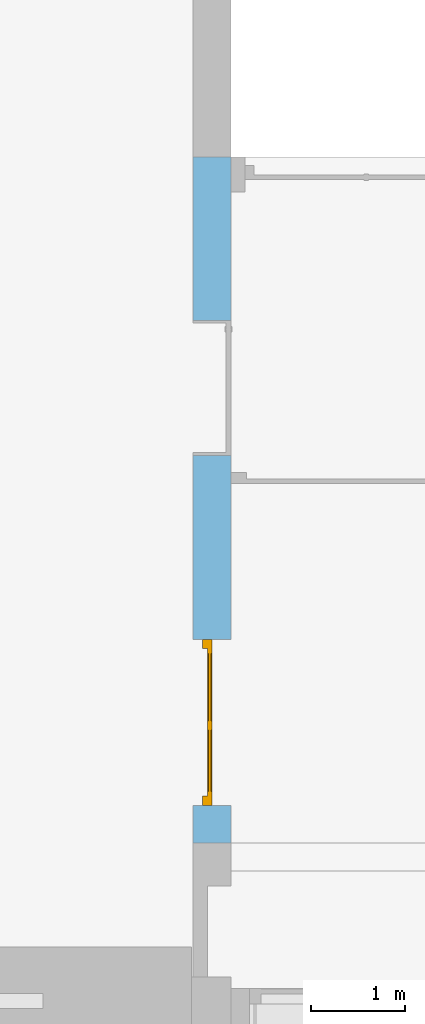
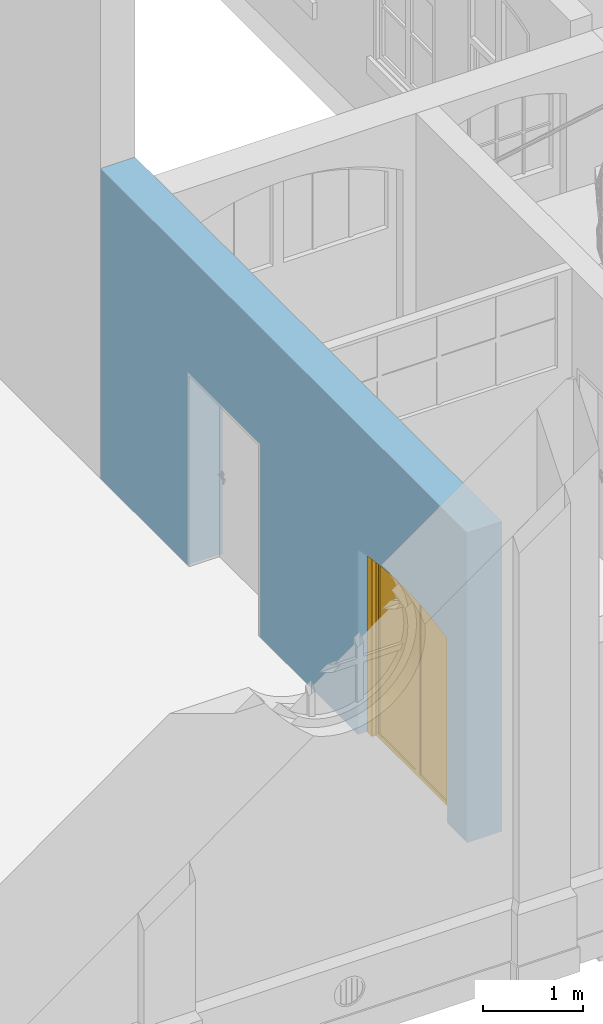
"""IFC4 building model written with IfcOpenShell, lengths in metres."""

from ifc_helpers import new_model, entity, si_unit, converted_unit, derived_unit, frame, frame_2d, origin, origin_with_axes, place, context, subcontext, project, spatial, polyline, rectangle, outline, extrude, closed_shell, open_shell, surface_model, source, transform, mapped, material, layer, layer_set, layer_usage, element, fill, save


model = new_model("IFC4")

# Units and contexts
model_context = context("Model", 3, precision=1e-05, world=origin())
body_context = subcontext(model_context, "Body", "Model", "MODEL_VIEW")
ifc_project = project(units=[si_unit("LENGTHUNIT", "METRE"), si_unit("AREAUNIT", "SQUARE_METRE"), si_unit("VOLUMEUNIT", "CUBIC_METRE"), si_unit("MASSUNIT", "GRAM", prefix="KILO"), converted_unit("PLANEANGLEUNIT", "DEGREE", entity("IfcPlaneAngleMeasure", 0.0174532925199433), si_unit("PLANEANGLEUNIT", "RADIAN"), dimensions=[0, 0, 0, 0, 0, 0, 0]), derived_unit("THERMALTRANSMITTANCEUNIT", [(si_unit("POWERUNIT", "WATT"), 1), (si_unit("THERMODYNAMICTEMPERATUREUNIT", "KELVIN"), -1), (si_unit("LENGTHUNIT", "METRE"), -2)]), derived_unit("VOLUMETRICFLOWRATEUNIT", [(si_unit("LENGTHUNIT", "METRE"), 3), (converted_unit("TIMEUNIT", "hour", entity("IfcTimeMeasure", 3600.0), si_unit("TIMEUNIT", "SECOND"), dimensions=[0, 0, 1, 0, 0, 0, 0]), -1), (si_unit("LENGTHUNIT", "METRE"), -1)])], contexts=[model_context])

# Building, storeys
building_placement = place(None, origin())
building = spatial("IfcBuilding", under=ifc_project, at=building_placement, Name="Bestandsgebäude A - Sporthalle / Wohnhaus (TB 100-499)   ANPASSEN !!!", CompositionType="ELEMENT")
storey_1_placement = place(building_placement, origin())
storey_1 = spatial("IfcBuildingStorey", under=building, at=storey_1_placement, Name="Geb. A Erdgeschoss (TB 200-249)", CompositionType="ELEMENT", Elevation=0.0)
storey_2_placement = place(storey_1_placement, origin())
storey_2 = spatial("IfcBuildingStorey", under=storey_1, at=storey_2_placement, Name="Architektur (TB 200-209)", CompositionType="PARTIAL")

# Wall, openings, door
ifc_material = material(Name="concrete")
ifc_layer = layer(ifc_material, 0.4)
ifc_layer_set = layer_set([ifc_layer])
ifc_layer_usage = layer_usage(ifc_layer_set, "AXIS2", "POSITIVE", 0.0)
wall_placement = place(storey_2_placement, frame((-8.5, 1.94, 0.0), z_axis=(0.0, 0.0, 1.0), x_axis=(0.0, 1.0, 0.0)))
wall = element("IfcWall", 1, at=wall_placement, inside=storey_2, material=ifc_layer_usage, Name="reinforced - bearing", PredefinedType="USERDEFINED", context=body_context, shape_type="SweptSolid", body=[
    extrude(rectangle(XDim=7.31, YDim=0.4, at=frame_2d((3.655, 0.2), x_axis=(1.0, 0.0))), origin_with_axes(), (0.0, 0.0, 1.0), 3.77),
])
opening_1_placement = place(wall_placement, frame((5.56999999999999, 0.4, 0.0), z_axis=(0.0, -1.0, 0.0), x_axis=(0.0, 0.0, 1.0)))
element("IfcOpeningElement", 2, at=opening_1_placement, cuts=wall, Name="Door opening", PredefinedType="OPENING", context=body_context, shape_type="SweptSolid", body=[
    extrude(outline(polyline([(2.35, 1.44), (2.35, 0.0), (0.0, 0.0), (0.0, 1.44), (2.35, 1.44)])), origin_with_axes(), (0.0, 0.0, 1.0), 0.4),
])
opening_2_placement = place(wall_placement, frame((2.17, 0.4, 0.0), z_axis=(0.0, -1.0, 0.0), x_axis=(0.0, 0.0, 1.0)))
opening_2 = element("IfcOpeningElement", 3, at=opening_2_placement, cuts=wall, Name="Door opening", PredefinedType="OPENING", context=body_context, shape_type="SweptSolid", body=[
    extrude(outline(polyline([(2.25, 1.77), (2.2628414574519, 1.71190189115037), (2.27480989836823, 1.65361767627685), (2.28590262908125, 1.5951604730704), (2.29611715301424, 1.5365434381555), (2.30545117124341, 1.47777976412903), (2.31390258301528, 1.41888267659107), (2.32146948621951, 1.35986543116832), (2.32815017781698, 1.30074131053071), (2.33394315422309, 1.24152362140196), (2.33884711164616, 1.1822256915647), (2.34286094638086, 1.12286086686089), (2.34598375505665, 1.06344250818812), (2.34821483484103, 1.00398398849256), (2.3495536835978, 0.944498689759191), (2.35, 0.884999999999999), (2.3495536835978, 0.825501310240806), (2.34821483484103, 0.766016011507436), (2.34598375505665, 0.706557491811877), (2.34286094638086, 0.647139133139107), (2.33884711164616, 0.587774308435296), (2.33394315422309, 0.528476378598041), (2.32815017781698, 0.469258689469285), (2.32146948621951, 0.410134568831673), (2.31390258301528, 0.351117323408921), (2.30545117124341, 0.292220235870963), (2.29611715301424, 0.233456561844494), (2.28590262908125, 0.174839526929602), (2.27480989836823, 0.116382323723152), (2.2628414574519, 0.0580981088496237), (2.25, 0.0), (0.0, 0.0), (0.0, 1.77), (2.25, 1.77)])), origin_with_axes(), (0.0, 0.0, 1.0), 0.4),
])
shared_shape = source(origin_with_axes(), body_context, "Body", "SurfaceModel", [
    surface_model("IfcShellBasedSurfaceModel", [(0.0580981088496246, 0.100000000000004, 2.2628414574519), (0.0, 0.100000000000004, 2.25), (0.0, 0.100000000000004, 0.0), (0.100000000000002, 0.100000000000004, 0.0), (0.100000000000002, 0.100000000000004, 2.16935926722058), (0.135762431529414, 0.100000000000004, 2.17670294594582), (0.192745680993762, 0.100000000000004, 2.1875159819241), (0.249884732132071, 0.100000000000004, 2.19747295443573), (0.307166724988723, 0.100000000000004, 2.20657162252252), (0.364578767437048, 0.100000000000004, 2.21480993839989), (0.422107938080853, 0.100000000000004, 2.22218604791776), (0.479741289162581, 0.100000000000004, 2.22869829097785), (0.537465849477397, 0.100000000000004, 2.23434520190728), (0.595268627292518, 0.100000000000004, 2.23912550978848), (0.653136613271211, 0.100000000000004, 2.24303813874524), (0.711056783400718, 0.100000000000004, 2.24608220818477), (0.769016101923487, 0.100000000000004, 2.248257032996), (0.827001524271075, 0.100000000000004, 2.24956212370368), (0.885, 0.100000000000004, 2.2499971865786), (0.942998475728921, 0.100000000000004, 2.24956212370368), (1.00098389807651, 0.100000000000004, 2.248257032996), (1.05894321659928, 0.100000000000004, 2.24608220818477), (1.11686338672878, 0.100000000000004, 2.24303813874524), (1.17473137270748, 0.100000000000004, 2.23912550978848), (1.2325341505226, 0.100000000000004, 2.23434520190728), (1.29025871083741, 0.100000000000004, 2.22869829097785), (1.34789206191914, 0.100000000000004, 2.22218604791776), (1.40542123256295, 0.100000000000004, 2.21480993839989), (1.46283327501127, 0.100000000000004, 2.20657162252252), (1.52011526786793, 0.100000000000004, 2.19747295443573), (1.57725431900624, 0.100000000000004, 2.1875159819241), (1.63423756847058, 0.100000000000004, 2.17670294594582), (1.67, 0.100000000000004, 2.16935926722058), (1.67, 0.100000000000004, 0.0), (1.77, 0.100000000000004, 0.0), (1.77, 0.100000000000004, 2.25), (1.71190189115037, 0.100000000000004, 2.2628414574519), (1.65361767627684, 0.100000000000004, 2.27480989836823), (1.59516047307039, 0.100000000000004, 2.28590262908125), (1.5365434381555, 0.100000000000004, 2.29611715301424), (1.47777976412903, 0.100000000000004, 2.30545117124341), (1.41888267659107, 0.100000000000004, 2.31390258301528), (1.35986543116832, 0.100000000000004, 2.32146948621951), (1.30074131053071, 0.100000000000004, 2.32815017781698), (1.24152362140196, 0.100000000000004, 2.33394315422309), (1.1822256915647, 0.100000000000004, 2.33884711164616), (1.12286086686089, 0.100000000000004, 2.34286094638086), (1.06344250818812, 0.100000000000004, 2.34598375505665), (1.00398398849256, 0.100000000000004, 2.34821483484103), (0.944498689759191, 0.100000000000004, 2.3495536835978), (0.884999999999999, 0.100000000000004, 2.35), (0.825501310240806, 0.100000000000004, 2.3495536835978), (0.766016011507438, 0.100000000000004, 2.34821483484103), (0.706557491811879, 0.100000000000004, 2.34598375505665), (0.647139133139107, 0.100000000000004, 2.34286094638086), (0.587774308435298, 0.100000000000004, 2.33884711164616), (0.528476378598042, 0.100000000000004, 2.33394315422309), (0.469258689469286, 0.100000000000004, 2.32815017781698), (0.410134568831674, 0.100000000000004, 2.32146948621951), (0.351117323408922, 0.100000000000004, 2.31390258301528), (0.292220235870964, 0.100000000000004, 2.30545117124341), (0.233456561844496, 0.100000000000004, 2.29611715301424), (0.174839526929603, 0.100000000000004, 2.28590262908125), (0.116382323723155, 0.100000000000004, 2.27480989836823), (0.0, 0.0, 2.25), (0.0580981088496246, 0.0, 2.2628414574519), (0.116382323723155, 0.0, 2.27480989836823), (0.174839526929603, 0.0, 2.28590262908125), (0.233456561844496, 0.0, 2.29611715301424), (0.292220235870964, 0.0, 2.30545117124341), (0.351117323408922, 0.0, 2.31390258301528), (0.410134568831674, 0.0, 2.32146948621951), (0.469258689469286, 0.0, 2.32815017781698), (0.528476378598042, 0.0, 2.33394315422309), (0.587774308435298, 0.0, 2.33884711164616), (0.647139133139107, 0.0, 2.34286094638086), (0.706557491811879, 0.0, 2.34598375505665), (0.766016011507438, 0.0, 2.34821483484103), (0.825501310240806, 0.0, 2.3495536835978), (0.884999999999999, 0.0, 2.35), (0.944498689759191, 0.0, 2.3495536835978), (1.00398398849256, 0.0, 2.34821483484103), (1.06344250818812, 0.0, 2.34598375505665), (1.12286086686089, 0.0, 2.34286094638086), (1.1822256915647, 0.0, 2.33884711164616), (1.24152362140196, 0.0, 2.33394315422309), (1.30074131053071, 0.0, 2.32815017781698), (1.35986543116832, 0.0, 2.32146948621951), (1.41888267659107, 0.0, 2.31390258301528), (1.47777976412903, 0.0, 2.30545117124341), (1.5365434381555, 0.0, 2.29611715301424), (1.59516047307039, 0.0, 2.28590262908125), (1.65361767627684, 0.0, 2.27480989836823), (1.71190189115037, 0.0, 2.2628414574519), (1.77, 0.0, 2.25), (1.77, 0.0, 0.0), (1.67, 0.0, 0.0), (1.67, 0.0, 2.16935926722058), (1.63423756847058, 0.0, 2.17670294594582), (1.57725431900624, 0.0, 2.1875159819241), (1.52011526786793, 0.0, 2.19747295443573), (1.46283327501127, 0.0, 2.20657162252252), (1.40542123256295, 0.0, 2.21480993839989), (1.34789206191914, 0.0, 2.22218604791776), (1.29025871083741, 0.0, 2.22869829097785), (1.2325341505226, 0.0, 2.23434520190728), (1.17473137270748, 0.0, 2.23912550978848), (1.11686338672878, 0.0, 2.24303813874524), (1.05894321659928, 0.0, 2.24608220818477), (1.00098389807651, 0.0, 2.248257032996), (0.942998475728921, 0.0, 2.24956212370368), (0.885, 0.0, 2.2499971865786), (0.827001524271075, 0.0, 2.24956212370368), (0.769016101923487, 0.0, 2.248257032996), (0.711056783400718, 0.0, 2.24608220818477), (0.653136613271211, 0.0, 2.24303813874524), (0.595268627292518, 0.0, 2.23912550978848), (0.537465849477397, 0.0, 2.23434520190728), (0.479741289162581, 0.0, 2.22869829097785), (0.422107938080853, 0.0, 2.22218604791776), (0.364578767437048, 0.0, 2.21480993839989), (0.307166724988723, 0.0, 2.20657162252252), (0.249884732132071, 0.0, 2.19747295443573), (0.192745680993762, 0.0, 2.1875159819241), (0.135762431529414, 0.0, 2.17670294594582), (0.100000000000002, 0.0, 2.16935926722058), (0.100000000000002, 0.0, 0.0), (0.0, 0.0, 0.0)], [closed_shell([[[0, 1, 2, 3, 4, 5, 6, 7, 8, 9, 10, 11, 12, 13, 14, 15, 16, 17, 18, 19, 20, 21, 22, 23, 24, 25, 26, 27, 28, 29, 30, 31, 32, 33, 34, 35, 36, 37, 38, 39, 40, 41, 42, 43, 44, 45, 46, 47, 48, 49, 50, 51, 52, 53, 54, 55, 56, 57, 58, 59, 60, 61, 62, 63]], [[64, 65, 66, 67, 68, 69, 70, 71, 72, 73, 74, 75, 76, 77, 78, 79, 80, 81, 82, 83, 84, 85, 86, 87, 88, 89, 90, 91, 92, 93, 94, 95, 96, 97, 98, 99, 100, 101, 102, 103, 104, 105, 106, 107, 108, 109, 110, 111, 112, 113, 114, 115, 116, 117, 118, 119, 120, 121, 122, 123, 124, 125, 126, 127]], [[1, 0, 65, 64]], [[2, 1, 64, 127]], [[34, 33, 96, 95]], [[126, 3, 2, 127]], [[35, 34, 95, 94]], [[36, 35, 94, 93]], [[37, 36, 93, 92]], [[38, 37, 92, 91]], [[39, 38, 91, 90]], [[40, 39, 90, 89]], [[41, 40, 89, 88]], [[42, 41, 88, 87]], [[43, 42, 87, 86]], [[44, 43, 86, 85]], [[45, 44, 85, 84]], [[46, 45, 84, 83]], [[47, 46, 83, 82]], [[48, 47, 82, 81]], [[49, 48, 81, 80]], [[50, 49, 80, 79]], [[51, 50, 79, 78]], [[52, 51, 78, 77]], [[53, 52, 77, 76]], [[54, 53, 76, 75]], [[55, 54, 75, 74]], [[56, 55, 74, 73]], [[57, 56, 73, 72]], [[58, 57, 72, 71]], [[59, 58, 71, 70]], [[60, 59, 70, 69]], [[61, 60, 69, 68]], [[62, 61, 68, 67]], [[63, 62, 67, 66]], [[0, 63, 66, 65]], [[4, 125, 124, 5]], [[3, 126, 125, 4]], [[32, 97, 96, 33]], [[31, 98, 97, 32]], [[30, 99, 98, 31]], [[29, 100, 99, 30]], [[28, 101, 100, 29]], [[27, 102, 101, 28]], [[26, 103, 102, 27]], [[25, 104, 103, 26]], [[24, 105, 104, 25]], [[23, 106, 105, 24]], [[22, 107, 106, 23]], [[21, 108, 107, 22]], [[20, 109, 108, 21]], [[19, 110, 109, 20]], [[18, 111, 110, 19]], [[17, 112, 111, 18]], [[16, 113, 112, 17]], [[15, 114, 113, 16]], [[14, 115, 114, 15]], [[13, 116, 115, 14]], [[12, 117, 116, 13]], [[11, 118, 117, 12]], [[10, 119, 118, 11]], [[9, 120, 119, 10]], [[8, 121, 120, 9]], [[7, 122, 121, 8]], [[6, 123, 122, 7]], [[5, 124, 123, 6]]], orient=[[False], [False], [False], [False], [False], [False], [False], [False], [False], [False], [False], [False], [False], [False], [False], [False], [False], [False], [False], [False], [False], [False], [False], [False], [False], [False], [False], [False], [False], [False], [False], [False], [False], [False], [False], [False], [False], [False], [False], [False], [False], [False], [False], [False], [False], [False], [False], [False], [False], [False], [False], [False], [False], [False], [False], [False], [False], [False], [False], [False], [False], [False], [False], [False], [False], [False]])]),
    surface_model("IfcShellBasedSurfaceModel", [(0.192745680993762, 0.100000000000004, 2.1875159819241), (0.135762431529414, 0.100000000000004, 2.17670294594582), (0.100000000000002, 0.100000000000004, 2.16935926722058), (0.100000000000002, 0.100000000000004, 0.0), (0.918303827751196, 0.100000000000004, 0.0), (0.918303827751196, 0.100000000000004, 2.249747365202), (0.885, 0.100000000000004, 2.2499971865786), (0.827001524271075, 0.100000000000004, 2.24956212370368), (0.769016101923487, 0.100000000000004, 2.248257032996), (0.711056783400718, 0.100000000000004, 2.24608220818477), (0.653136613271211, 0.100000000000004, 2.24303813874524), (0.595268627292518, 0.100000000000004, 2.23912550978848), (0.537465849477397, 0.100000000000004, 2.23434520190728), (0.479741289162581, 0.100000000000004, 2.22869829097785), (0.422107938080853, 0.100000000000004, 2.22218604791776), (0.364578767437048, 0.100000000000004, 2.21480993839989), (0.307166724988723, 0.100000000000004, 2.20657162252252), (0.249884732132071, 0.100000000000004, 2.19747295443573), (0.150000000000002, 0.100000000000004, 2.12851239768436), (0.20169875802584, 0.100000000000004, 2.13832265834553), (0.258098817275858, 0.100000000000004, 2.14815085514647), (0.314639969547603, 0.100000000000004, 2.15713184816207), (0.37130948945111, 0.100000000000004, 2.16526361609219), (0.428094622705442, 0.100000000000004, 2.17254432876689), (0.484982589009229, 0.100000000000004, 2.17897234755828), (0.541960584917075, 0.100000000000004, 2.18454622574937), (0.599015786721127, 0.100000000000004, 2.18926470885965), (0.656135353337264, 0.100000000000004, 2.19312673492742), (0.713306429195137, 0.100000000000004, 2.19613143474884), (0.770516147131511, 0.100000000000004, 2.19827813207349), (0.82775163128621, 0.100000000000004, 2.19956634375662), (0.868303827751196, 0.100000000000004, 2.1998705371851), (0.868303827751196, 0.100000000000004, 0.05), (0.150000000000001, 0.100000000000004, 0.05), (0.135762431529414, 0.0500000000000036, 2.17670294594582), (0.192745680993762, 0.0500000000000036, 2.1875159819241), (0.249884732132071, 0.0500000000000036, 2.19747295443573), (0.307166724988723, 0.0500000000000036, 2.20657162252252), (0.364578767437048, 0.0500000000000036, 2.21480993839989), (0.422107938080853, 0.0500000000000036, 2.22218604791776), (0.479741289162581, 0.0500000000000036, 2.22869829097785), (0.537465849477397, 0.0500000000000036, 2.23434520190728), (0.595268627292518, 0.0500000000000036, 2.23912550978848), (0.653136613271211, 0.0500000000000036, 2.24303813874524), (0.711056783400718, 0.0500000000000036, 2.24608220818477), (0.769016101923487, 0.0500000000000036, 2.248257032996), (0.827001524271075, 0.0500000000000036, 2.24956212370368), (0.885, 0.0500000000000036, 2.2499971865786), (0.918303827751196, 0.0500000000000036, 2.249747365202), (0.918303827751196, 0.0500000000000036, 0.0), (0.100000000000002, 0.0500000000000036, 0.0), (0.100000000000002, 0.0500000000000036, 2.16935926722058), (0.20169875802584, 0.0500000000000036, 2.13832265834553), (0.150000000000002, 0.0500000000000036, 2.12851239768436), (0.150000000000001, 0.0500000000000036, 0.05), (0.868303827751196, 0.0500000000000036, 0.05), (0.868303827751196, 0.0500000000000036, 2.1998705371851), (0.82775163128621, 0.0500000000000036, 2.19956634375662), (0.770516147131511, 0.0500000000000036, 2.19827813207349), (0.713306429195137, 0.0500000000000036, 2.19613143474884), (0.656135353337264, 0.0500000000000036, 2.19312673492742), (0.599015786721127, 0.0500000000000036, 2.18926470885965), (0.541960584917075, 0.0500000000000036, 2.18454622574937), (0.484982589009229, 0.0500000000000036, 2.17897234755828), (0.428094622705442, 0.0500000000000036, 2.17254432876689), (0.37130948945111, 0.0500000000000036, 2.16526361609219), (0.314639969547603, 0.0500000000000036, 2.15713184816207), (0.258098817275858, 0.0500000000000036, 2.14815085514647)], [closed_shell([[[0, 1, 2, 3, 4, 5, 6, 7, 8, 9, 10, 11, 12, 13, 14, 15, 16, 17], [18, 19, 20, 21, 22, 23, 24, 25, 26, 27, 28, 29, 30, 31, 32, 33]], [[34, 35, 36, 37, 38, 39, 40, 41, 42, 43, 44, 45, 46, 47, 48, 49, 50, 51], [52, 53, 54, 55, 56, 57, 58, 59, 60, 61, 62, 63, 64, 65, 66, 67]], [[1, 0, 35, 34]], [[2, 1, 34, 51]], [[3, 2, 51, 50]], [[4, 3, 50, 49]], [[5, 4, 49, 48]], [[6, 5, 48, 47]], [[7, 6, 47, 46]], [[8, 7, 46, 45]], [[9, 8, 45, 44]], [[10, 9, 44, 43]], [[11, 10, 43, 42]], [[12, 11, 42, 41]], [[13, 12, 41, 40]], [[14, 13, 40, 39]], [[15, 14, 39, 38]], [[16, 15, 38, 37]], [[17, 16, 37, 36]], [[0, 17, 36, 35]], [[18, 53, 52, 19]], [[33, 54, 53, 18]], [[32, 55, 54, 33]], [[31, 56, 55, 32]], [[30, 57, 56, 31]], [[29, 58, 57, 30]], [[28, 59, 58, 29]], [[27, 60, 59, 28]], [[26, 61, 60, 27]], [[25, 62, 61, 26]], [[24, 63, 62, 25]], [[23, 64, 63, 24]], [[22, 65, 64, 23]], [[21, 66, 65, 22]], [[20, 67, 66, 21]], [[19, 52, 67, 20]]], orient=[[False, False], [False, False], [False], [False], [False], [False], [False], [False], [False], [False], [False], [False], [False], [False], [False], [False], [False], [False], [False], [False], [False], [False], [False], [False], [False], [False], [False], [False], [False], [False], [False], [False], [False], [False], [False], [False]])]),
    surface_model("IfcShellBasedSurfaceModel", [(1.00098389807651, 0.100000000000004, 2.248257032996), (0.942998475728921, 0.100000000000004, 2.24956212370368), (0.919303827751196, 0.100000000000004, 2.24973986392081), (0.919303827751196, 0.100000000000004, 0.0), (1.67, 0.100000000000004, 0.0), (1.67, 0.100000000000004, 2.16935926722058), (1.63423756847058, 0.100000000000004, 2.17670294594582), (1.57725431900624, 0.100000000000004, 2.1875159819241), (1.52011526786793, 0.100000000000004, 2.19747295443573), (1.46283327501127, 0.100000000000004, 2.20657162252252), (1.40542123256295, 0.100000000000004, 2.21480993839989), (1.34789206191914, 0.100000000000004, 2.22218604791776), (1.29025871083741, 0.100000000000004, 2.22869829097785), (1.2325341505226, 0.100000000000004, 2.23434520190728), (1.17473137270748, 0.100000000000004, 2.23912550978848), (1.11686338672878, 0.100000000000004, 2.24303813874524), (1.05894321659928, 0.100000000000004, 2.24608220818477), (0.969303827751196, 0.100000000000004, 2.19895740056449), (0.999483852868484, 0.100000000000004, 2.19827813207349), (1.05669357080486, 0.100000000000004, 2.19613143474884), (1.11386464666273, 0.100000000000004, 2.19312673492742), (1.17098421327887, 0.100000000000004, 2.18926470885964), (1.22803941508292, 0.100000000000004, 2.18454622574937), (1.28501741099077, 0.100000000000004, 2.17897234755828), (1.34190537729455, 0.100000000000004, 2.17254432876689), (1.39869051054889, 0.100000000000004, 2.1652636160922), (1.45536003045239, 0.100000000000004, 2.15713184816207), (1.51190118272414, 0.100000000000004, 2.14815085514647), (1.56830124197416, 0.100000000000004, 2.13832265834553), (1.62, 0.100000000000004, 2.12851239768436), (1.62, 0.100000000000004, 0.05), (0.969303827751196, 0.100000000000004, 0.05), (0.942998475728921, 0.0500000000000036, 2.24956212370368), (1.00098389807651, 0.0500000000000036, 2.248257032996), (1.05894321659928, 0.0500000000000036, 2.24608220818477), (1.11686338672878, 0.0500000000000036, 2.24303813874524), (1.17473137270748, 0.0500000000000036, 2.23912550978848), (1.2325341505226, 0.0500000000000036, 2.23434520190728), (1.29025871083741, 0.0500000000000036, 2.22869829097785), (1.34789206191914, 0.0500000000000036, 2.22218604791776), (1.40542123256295, 0.0500000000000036, 2.21480993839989), (1.46283327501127, 0.0500000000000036, 2.20657162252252), (1.52011526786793, 0.0500000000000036, 2.19747295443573), (1.57725431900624, 0.0500000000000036, 2.1875159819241), (1.63423756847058, 0.0500000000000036, 2.17670294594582), (1.67, 0.0500000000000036, 2.16935926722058), (1.67, 0.0500000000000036, 0.0), (0.919303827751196, 0.0500000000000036, 0.0), (0.919303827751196, 0.0500000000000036, 2.24973986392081), (0.999483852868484, 0.0500000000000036, 2.19827813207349), (0.969303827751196, 0.0500000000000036, 2.19895740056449), (0.969303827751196, 0.0500000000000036, 0.05), (1.62, 0.0500000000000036, 0.05), (1.62, 0.0500000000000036, 2.12851239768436), (1.56830124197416, 0.0500000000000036, 2.13832265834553), (1.51190118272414, 0.0500000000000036, 2.14815085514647), (1.45536003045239, 0.0500000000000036, 2.15713184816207), (1.39869051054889, 0.0500000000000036, 2.1652636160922), (1.34190537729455, 0.0500000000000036, 2.17254432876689), (1.28501741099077, 0.0500000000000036, 2.17897234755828), (1.22803941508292, 0.0500000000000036, 2.18454622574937), (1.17098421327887, 0.0500000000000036, 2.18926470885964), (1.11386464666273, 0.0500000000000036, 2.19312673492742), (1.05669357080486, 0.0500000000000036, 2.19613143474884)], [closed_shell([[[0, 1, 2, 3, 4, 5, 6, 7, 8, 9, 10, 11, 12, 13, 14, 15, 16], [17, 18, 19, 20, 21, 22, 23, 24, 25, 26, 27, 28, 29, 30, 31]], [[32, 33, 34, 35, 36, 37, 38, 39, 40, 41, 42, 43, 44, 45, 46, 47, 48], [49, 50, 51, 52, 53, 54, 55, 56, 57, 58, 59, 60, 61, 62, 63]], [[1, 0, 33, 32]], [[2, 1, 32, 48]], [[3, 2, 48, 47]], [[4, 3, 47, 46]], [[5, 4, 46, 45]], [[6, 5, 45, 44]], [[7, 6, 44, 43]], [[8, 7, 43, 42]], [[9, 8, 42, 41]], [[10, 9, 41, 40]], [[11, 10, 40, 39]], [[12, 11, 39, 38]], [[13, 12, 38, 37]], [[14, 13, 37, 36]], [[15, 14, 36, 35]], [[16, 15, 35, 34]], [[0, 16, 34, 33]], [[17, 50, 49, 18]], [[31, 51, 50, 17]], [[30, 52, 51, 31]], [[29, 53, 52, 30]], [[28, 54, 53, 29]], [[27, 55, 54, 28]], [[26, 56, 55, 27]], [[25, 57, 56, 26]], [[24, 58, 57, 25]], [[23, 59, 58, 24]], [[22, 60, 59, 23]], [[21, 61, 60, 22]], [[20, 62, 61, 21]], [[19, 63, 62, 20]], [[18, 49, 63, 19]]], orient=[[False, False], [False, False], [False], [False], [False], [False], [False], [False], [False], [False], [False], [False], [False], [False], [False], [False], [False], [False], [False], [False], [False], [False], [False], [False], [False], [False], [False], [False], [False], [False], [False], [False], [False], [False]])]),
    surface_model("IfcShellBasedSurfaceModel", [(0.20169875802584, 0.0870000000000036, 2.13832265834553), (0.150000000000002, 0.0870000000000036, 2.12851239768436), (0.150000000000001, 0.0870000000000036, 0.05), (0.868303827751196, 0.0870000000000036, 0.05), (0.868303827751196, 0.0870000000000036, 2.1998705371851), (0.82775163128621, 0.0870000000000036, 2.19956634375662), (0.770516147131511, 0.0870000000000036, 2.19827813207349), (0.713306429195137, 0.0870000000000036, 2.19613143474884), (0.656135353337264, 0.0870000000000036, 2.19312673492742), (0.599015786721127, 0.0870000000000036, 2.18926470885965), (0.541960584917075, 0.0870000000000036, 2.18454622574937), (0.484982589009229, 0.0870000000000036, 2.17897234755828), (0.428094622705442, 0.0870000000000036, 2.17254432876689), (0.37130948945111, 0.0870000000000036, 2.16526361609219), (0.314639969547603, 0.0870000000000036, 2.15713184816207), (0.258098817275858, 0.0870000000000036, 2.14815085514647), (0.150000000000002, 0.0630000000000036, 2.12851239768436), (0.20169875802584, 0.0630000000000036, 2.13832265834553), (0.258098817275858, 0.0630000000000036, 2.14815085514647), (0.314639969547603, 0.0630000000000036, 2.15713184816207), (0.37130948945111, 0.0630000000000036, 2.16526361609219), (0.428094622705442, 0.0630000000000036, 2.17254432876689), (0.484982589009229, 0.0630000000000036, 2.17897234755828), (0.541960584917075, 0.0630000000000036, 2.18454622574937), (0.599015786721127, 0.0630000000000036, 2.18926470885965), (0.656135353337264, 0.0630000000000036, 2.19312673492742), (0.713306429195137, 0.0630000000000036, 2.19613143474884), (0.770516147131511, 0.0630000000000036, 2.19827813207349), (0.82775163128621, 0.0630000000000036, 2.19956634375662), (0.868303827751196, 0.0630000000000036, 2.1998705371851), (0.868303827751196, 0.0630000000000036, 0.05), (0.150000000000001, 0.0630000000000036, 0.05)], [closed_shell([[[0, 1, 2, 3, 4, 5, 6, 7, 8, 9, 10, 11, 12, 13, 14, 15]], [[16, 17, 18, 19, 20, 21, 22, 23, 24, 25, 26, 27, 28, 29, 30, 31]], [[1, 0, 17, 16]], [[2, 1, 16, 31]], [[3, 2, 31, 30]], [[4, 3, 30, 29]], [[5, 4, 29, 28]], [[6, 5, 28, 27]], [[7, 6, 27, 26]], [[8, 7, 26, 25]], [[9, 8, 25, 24]], [[10, 9, 24, 23]], [[11, 10, 23, 22]], [[12, 11, 22, 21]], [[13, 12, 21, 20]], [[14, 13, 20, 19]], [[15, 14, 19, 18]], [[0, 15, 18, 17]]], orient=[[False], [False], [False], [False], [False], [False], [False], [False], [False], [False], [False], [False], [False], [False], [False], [False], [False], [False]])]),
    surface_model("IfcShellBasedSurfaceModel", [(0.999483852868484, 0.0870000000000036, 2.19827813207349), (0.969303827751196, 0.0870000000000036, 2.19895740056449), (0.969303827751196, 0.0870000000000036, 0.05), (1.62, 0.0870000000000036, 0.05), (1.62, 0.0870000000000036, 2.12851239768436), (1.56830124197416, 0.0870000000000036, 2.13832265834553), (1.51190118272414, 0.0870000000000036, 2.14815085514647), (1.45536003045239, 0.0870000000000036, 2.15713184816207), (1.39869051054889, 0.0870000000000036, 2.1652636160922), (1.34190537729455, 0.0870000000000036, 2.17254432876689), (1.28501741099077, 0.0870000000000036, 2.17897234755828), (1.22803941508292, 0.0870000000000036, 2.18454622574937), (1.17098421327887, 0.0870000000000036, 2.18926470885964), (1.11386464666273, 0.0870000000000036, 2.19312673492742), (1.05669357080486, 0.0870000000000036, 2.19613143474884), (0.969303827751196, 0.0630000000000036, 2.19895740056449), (0.999483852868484, 0.0630000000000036, 2.19827813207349), (1.05669357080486, 0.0630000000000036, 2.19613143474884), (1.11386464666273, 0.0630000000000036, 2.19312673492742), (1.17098421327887, 0.0630000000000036, 2.18926470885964), (1.22803941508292, 0.0630000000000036, 2.18454622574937), (1.28501741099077, 0.0630000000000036, 2.17897234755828), (1.34190537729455, 0.0630000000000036, 2.17254432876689), (1.39869051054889, 0.0630000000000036, 2.1652636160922), (1.45536003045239, 0.0630000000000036, 2.15713184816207), (1.51190118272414, 0.0630000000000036, 2.14815085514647), (1.56830124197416, 0.0630000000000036, 2.13832265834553), (1.62, 0.0630000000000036, 2.12851239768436), (1.62, 0.0630000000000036, 0.05), (0.969303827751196, 0.0630000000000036, 0.05)], [closed_shell([[[0, 1, 2, 3, 4, 5, 6, 7, 8, 9, 10, 11, 12, 13, 14]], [[15, 16, 17, 18, 19, 20, 21, 22, 23, 24, 25, 26, 27, 28, 29]], [[1, 0, 16, 15]], [[2, 1, 15, 29]], [[3, 2, 29, 28]], [[4, 3, 28, 27]], [[5, 4, 27, 26]], [[6, 5, 26, 25]], [[7, 6, 25, 24]], [[8, 7, 24, 23]], [[9, 8, 23, 22]], [[10, 9, 22, 21]], [[11, 10, 21, 20]], [[12, 11, 20, 19]], [[13, 12, 19, 18]], [[14, 13, 18, 17]], [[0, 14, 17, 16]]], orient=[[False], [False], [False], [False], [False], [False], [False], [False], [False], [False], [False], [False], [False], [False], [False], [False], [False]])]),
    surface_model("IfcShellBasedSurfaceModel", [(1.62, 0.0750000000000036, 0.05), (0.969303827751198, 0.0750000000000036, 1.12447870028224), (1.58173616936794, 0.0750000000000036, 2.13577327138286), (1.62, 0.0750000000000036, 2.12851239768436)], [open_shell([[[0, 1, 2, 3]]], orient=[[False]])]),
])
door_placement = place(opening_2_placement, frame((0.0, 0.0, 0.1), z_axis=(1.0, 0.0, 0.0), x_axis=(0.0, 1.0, 0.0)))
door = element("IfcDoor", 4, at=door_placement, inside=storey_2, Name="door", OperationType="USERDEFINED", OverallHeight=2.35, OverallWidth=1.77, PredefinedType="DOOR", context=body_context, shape_type="MappedRepresentation", body=[
    mapped(shared_shape, transform((0.0, 0.0, 0.0), x_axis=(1.0, 0.0, 0.0), y_axis=(0.0, 1.0, 0.0), z_axis=(0.0, 0.0, 1.0), scale=1.0)),
])
fill(opening_2, door)

save(model, "model.ifc")
